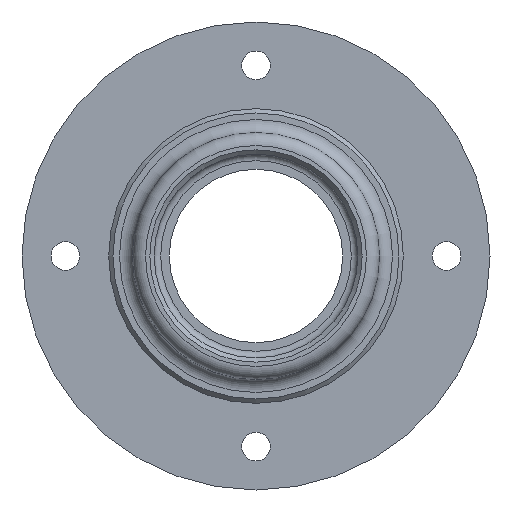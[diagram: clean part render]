
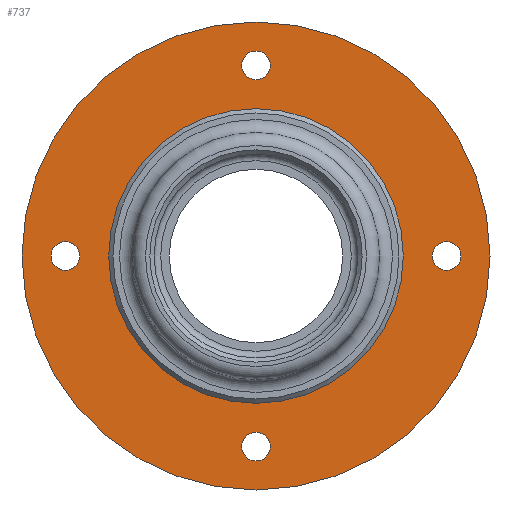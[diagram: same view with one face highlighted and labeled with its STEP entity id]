
A CAD part, left-side view. The second image highlights one B-rep face of the part: STEP entity #737.
In plain terms, the highlighted planar face has unit normal (-1, 0, 0).
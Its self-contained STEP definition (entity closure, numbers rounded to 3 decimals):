
#120=FACE_BOUND('',#230,.T.);
#121=FACE_BOUND('',#231,.T.);
#122=FACE_BOUND('',#232,.T.);
#123=FACE_BOUND('',#233,.T.);
#124=FACE_BOUND('',#234,.T.);
#169=FACE_OUTER_BOUND('',#229,.T.);
#229=EDGE_LOOP('',(#642));
#230=EDGE_LOOP('',(#643));
#231=EDGE_LOOP('',(#644));
#232=EDGE_LOOP('',(#645));
#233=EDGE_LOOP('',(#646));
#234=EDGE_LOOP('',(#647));
#250=CIRCLE('',#774,3.3);
#256=CIRCLE('',#785,3.3);
#262=CIRCLE('',#796,3.3);
#270=CIRCLE('',#811,3.3);
#275=CIRCLE('',#819,34.);
#305=CIRCLE('',#866,54.);
#322=VERTEX_POINT('',#1166);
#329=VERTEX_POINT('',#1188);
#336=VERTEX_POINT('',#1210);
#346=VERTEX_POINT('',#1241);
#351=VERTEX_POINT('',#1256);
#376=VERTEX_POINT('',#1336);
#392=EDGE_CURVE('',#322,#322,#250,.T.);
#402=EDGE_CURVE('',#329,#329,#256,.T.);
#412=EDGE_CURVE('',#336,#336,#262,.T.);
#426=EDGE_CURVE('',#346,#346,#270,.T.);
#432=EDGE_CURVE('',#351,#351,#275,.T.);
#470=EDGE_CURVE('',#376,#376,#305,.T.);
#642=ORIENTED_EDGE('',*,*,#470,.F.);
#643=ORIENTED_EDGE('',*,*,#392,.T.);
#644=ORIENTED_EDGE('',*,*,#402,.T.);
#645=ORIENTED_EDGE('',*,*,#412,.T.);
#646=ORIENTED_EDGE('',*,*,#426,.T.);
#647=ORIENTED_EDGE('',*,*,#432,.T.);
#696=PLANE('',#865);
#737=ADVANCED_FACE('',(#169,#120,#121,#122,#123,#124),#696,.T.);
#774=AXIS2_PLACEMENT_3D('',#1168,#903,#904);
#785=AXIS2_PLACEMENT_3D('',#1190,#929,#930);
#796=AXIS2_PLACEMENT_3D('',#1212,#955,#956);
#811=AXIS2_PLACEMENT_3D('',#1243,#991,#992);
#819=AXIS2_PLACEMENT_3D('',#1257,#1008,#1009);
#865=AXIS2_PLACEMENT_3D('',#1335,#1108,#1109);
#866=AXIS2_PLACEMENT_3D('',#1337,#1110,#1111);
#903=DIRECTION('center_axis',(1.,0.,0.));
#904=DIRECTION('ref_axis',(0.,-1.,0.));
#929=DIRECTION('center_axis',(1.,0.,0.));
#930=DIRECTION('ref_axis',(0.,0.,1.));
#955=DIRECTION('center_axis',(1.,0.,0.));
#956=DIRECTION('ref_axis',(0.,1.,0.));
#991=DIRECTION('center_axis',(1.,0.,0.));
#992=DIRECTION('ref_axis',(0.,0.,-1.));
#1008=DIRECTION('center_axis',(1.,0.,0.));
#1009=DIRECTION('ref_axis',(0.,0.,-1.));
#1108=DIRECTION('center_axis',(-1.,0.,0.));
#1109=DIRECTION('ref_axis',(0.,0.,1.));
#1110=DIRECTION('center_axis',(1.,0.,0.));
#1111=DIRECTION('ref_axis',(0.,0.,-1.));
#1166=CARTESIAN_POINT('',(15.,3.3,44.));
#1168=CARTESIAN_POINT('Origin',(15.,0.,44.));
#1188=CARTESIAN_POINT('',(15.,44.,-3.3));
#1190=CARTESIAN_POINT('Origin',(15.,44.,0.));
#1210=CARTESIAN_POINT('',(15.,-3.3,-44.));
#1212=CARTESIAN_POINT('Origin',(15.,0.,-44.));
#1241=CARTESIAN_POINT('',(15.,-44.,3.3));
#1243=CARTESIAN_POINT('Origin',(15.,-44.,0.));
#1256=CARTESIAN_POINT('',(15.,-34.,0.));
#1257=CARTESIAN_POINT('Origin',(15.,0.,0.));
#1335=CARTESIAN_POINT('Origin',(15.,54.,0.));
#1336=CARTESIAN_POINT('',(15.,-54.,0.));
#1337=CARTESIAN_POINT('Origin',(15.,0.,0.));
